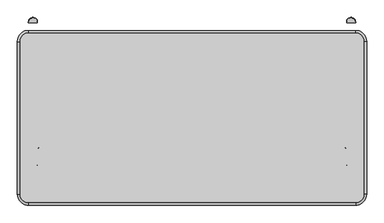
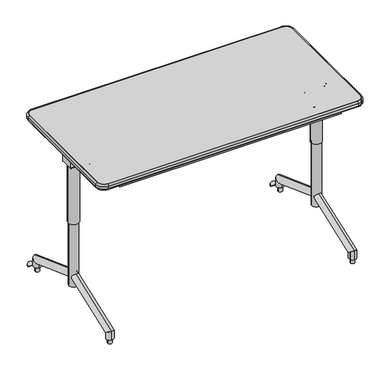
"""IFC4 building model written with IfcOpenShell, lengths in millimetres: furniture geometry, SmithSystem_AM_Table_Education_Elemental_NestAndFold_30D : 30D x 60W."""

from ifc_helpers import new_model, si_unit, point, frame, frame_2d, origin, place, context, project, spatial, polyline, circle_curve, ellipse_curve, trimmed, segment, composite_curve, outline, extrude, source, transform, mapped, element, save
from ifc_brep_helpers import plane_surface, cylinder_surface, revolved_surface, advanced_brep


def furniture_a0944320(model_context):
    return source(origin(), model_context, "Body", "SolidModel", [
        advanced_brep(
        [(1334.7134706, -503.4789552, 981.8257265), (1334.7134706, -510.7498344, 978.192725), (1327.0335156, -503.4789552, 981.8257265), (1327.0335156, -510.7498344, 978.192725), (1321.5159237, -515.6855805, 975.7265071), (1313.3879237, -515.6855805, 975.7265071), (1313.3879237, -580.9273959, 943.1274772), (1321.5159237, -580.9273959, 943.1274772), (1327.1310849, -585.9504224, 940.6176484), (1327.1310849, -593.2213016, 936.9846469), (1427.2139747, -593.2213016, 936.9846469), (1427.2139747, -585.9504224, 940.6176484), (1432.8070377, -580.9471638, 943.1175999), (1440.9350377, -580.9471638, 943.1175999), (1440.9350377, -515.7942232, 975.6722222), (1432.8070377, -515.7942232, 975.6722222), (1427.1679959, -510.7498344, 978.192725), (1427.1679959, -503.4789552, 981.8257265), (1419.6094908, -503.4789552, 981.8257265), (1419.6094908, -510.7498344, 978.192725)],
        [
            (0, 1, circle_curve(frame((1334.7134706, -507.1143948, 980.0092257), z_axis=(1.0, 0.0, 0.0), x_axis=(0.0, -0.8945471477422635, -0.4469736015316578)), 4.064)),
            (1, 0, circle_curve(frame((1334.7134706, -507.1143948, 980.0092257), z_axis=(1.0, 0.0, 0.0), x_axis=(0.0, -0.8945471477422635, -0.4469736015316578)), 4.064)),
            (0, 2),
            (2, 3, circle_curve(frame((1327.0335156, -507.1143948, 980.0092257), z_axis=(1.0, 0.0, 0.0), x_axis=(0.0, -0.8945471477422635, -0.4469736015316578)), 4.064)),
            (3, 1),
            (3, 2, circle_curve(frame((1327.0335156, -507.1143948, 980.0092257), z_axis=(1.0, 0.0, 0.0), x_axis=(0.0, -0.8945471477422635, -0.4469736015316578)), 4.064)),
            (4, 3, circle_curve(frame((1327.0335156, -515.6855805, 975.7265071), z_axis=(0.0, 0.4469736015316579, -0.8945471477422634), x_axis=(0.0, 0.8945471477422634, 0.4469736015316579)), 5.517592)),
            (2, 5, circle_curve(frame((1327.0335156, -515.6855805, 975.7265071), z_axis=(0.0, -0.4469736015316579, 0.8945471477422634), x_axis=(0.0, 0.8945471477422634, 0.4469736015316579)), 13.645592)),
            (5, 4, circle_curve(frame((1317.4519237, -515.6855805, 975.7265071), z_axis=(0.0, 0.8945471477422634, 0.4469736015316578), x_axis=(1.0, 0.0, 0.0)), 4.064)),
            (4, 5, circle_curve(frame((1317.4519237, -515.6855805, 975.7265071), z_axis=(0.0, 0.8945471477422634, 0.4469736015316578), x_axis=(1.0, 0.0, 0.0)), 4.064)),
            (5, 6),
            (6, 7, circle_curve(frame((1317.4519237, -580.9273959, 943.1274772), z_axis=(0.0, 0.8945471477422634, 0.4469736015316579), x_axis=(1.0, 0.0, 0.0)), 4.064)),
            (7, 4),
            (7, 6, circle_curve(frame((1317.4519237, -580.9273959, 943.1274772), z_axis=(0.0, 0.8945471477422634, 0.4469736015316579), x_axis=(1.0, 0.0, 0.0)), 4.064)),
            (8, 7, circle_curve(frame((1327.1310849, -580.9273959, 943.1274772), z_axis=(0.0, 0.4469736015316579, -0.8945471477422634), x_axis=(-1.0, 0.0, 0.0)), 5.6151612)),
            (6, 9, circle_curve(frame((1327.1310849, -580.9273959, 943.1274772), z_axis=(0.0, -0.4469736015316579, 0.8945471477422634), x_axis=(-1.0, 0.0, 0.0)), 13.7431612)),
            (9, 8, circle_curve(frame((1327.1310849, -589.585862, 938.8011476), z_axis=(-1.0, 0.0, 0.0), x_axis=(0.0, 0.8945471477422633, 0.44697360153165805)), 4.064)),
            (8, 9, circle_curve(frame((1327.1310849, -589.585862, 938.8011476), z_axis=(-1.0, 0.0, 0.0), x_axis=(0.0, 0.8945471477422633, 0.44697360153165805)), 4.064)),
            (9, 10),
            (10, 11, circle_curve(frame((1427.2139747, -589.585862, 938.8011476), z_axis=(-1.0, 0.0, 0.0), x_axis=(0.0, 0.8945471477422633, 0.44697360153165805)), 4.064)),
            (11, 8),
            (11, 10, circle_curve(frame((1427.2139747, -589.585862, 938.8011476), z_axis=(-1.0, 0.0, 0.0), x_axis=(0.0, 0.8945471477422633, 0.44697360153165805)), 4.064)),
            (12, 11, circle_curve(frame((1427.2139747, -580.9471638, 943.1175999), z_axis=(0.0, 0.4469736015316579, -0.8945471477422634), x_axis=(0.0, -0.8945471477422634, -0.4469736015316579)), 5.593063)),
            (10, 13, circle_curve(frame((1427.2139747, -580.9471638, 943.1175999), z_axis=(0.0, -0.4469736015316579, 0.8945471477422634), x_axis=(0.0, -0.8945471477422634, -0.4469736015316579)), 13.721063)),
            (13, 12, circle_curve(frame((1436.8710377, -580.9471638, 943.1175999), z_axis=(0.0, -0.8945471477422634, -0.44697360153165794), x_axis=(-1.0, 0.0, 0.0)), 4.064)),
            (12, 13, circle_curve(frame((1436.8710377, -580.9471638, 943.1175999), z_axis=(0.0, -0.8945471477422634, -0.44697360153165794), x_axis=(-1.0, 0.0, 0.0)), 4.064)),
            (13, 14),
            (14, 15, circle_curve(frame((1436.8710377, -515.7942232, 975.6722222), z_axis=(0.0, -0.8945471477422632, -0.4469736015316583), x_axis=(-1.0, 0.0, 0.0)), 4.064)),
            (15, 12),
            (15, 14, circle_curve(frame((1436.8710377, -515.7942232, 975.6722222), z_axis=(0.0, -0.8945471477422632, -0.4469736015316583), x_axis=(-1.0, 0.0, 0.0)), 4.064)),
            (16, 15, circle_curve(frame((1427.1679959, -515.7942232, 975.6722222), z_axis=(0.0, 0.4469736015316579, -0.8945471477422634), x_axis=(1.0, 0.0, 0.0)), 5.6390418)),
            (14, 17, circle_curve(frame((1427.1679959, -515.7942232, 975.6722222), z_axis=(0.0, -0.4469736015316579, 0.8945471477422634), x_axis=(1.0, 0.0, 0.0)), 13.7670418)),
            (17, 16, circle_curve(frame((1427.1679959, -507.1143948, 980.0092257), z_axis=(1.0, 0.0, 0.0), x_axis=(0.0, -0.8945471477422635, -0.44697360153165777)), 4.064)),
            (16, 17, circle_curve(frame((1427.1679959, -507.1143948, 980.0092257), z_axis=(1.0, 0.0, 0.0), x_axis=(0.0, -0.8945471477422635, -0.44697360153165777)), 4.064)),
            (18, 19, circle_curve(frame((1419.6094908, -507.1143948, 980.0092257), z_axis=(-1.0, 0.0, 0.0), x_axis=(0.0, -0.8945471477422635, -0.4469736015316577)), 4.064)),
            (19, 18, circle_curve(frame((1419.6094908, -507.1143948, 980.0092257), z_axis=(-1.0, 0.0, 0.0), x_axis=(0.0, -0.8945471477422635, -0.4469736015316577)), 4.064)),
            (17, 18),
            (19, 16),
        ],
        [
            plane_surface(frame((1334.7134706, -370.4506725, 697.3892853), z_axis=(1.0000000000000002, 0.0, 0.0), x_axis=(0.0, -0.4469736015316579, 0.8945471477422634))),
            cylinder_surface(frame((1334.7134706, -507.1143948, 980.0092257), z_axis=(1.0000000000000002, 0.0, 0.0), x_axis=(0.0, -0.8945471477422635, -0.4469736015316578)), 4.064),
            revolved_surface(trimmed(ellipse_curve(frame((1327.0335156, -507.1143948, 980.0092257), z_axis=(1.0, 0.0, 0.0), x_axis=(0.0, -0.8945471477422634, -0.4469736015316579)), 4.064, 4.064), [point((1327.0335156, -503.4789552, 981.8257265))], [point((1327.0335156, -510.7498344, 978.192725))], True, "CARTESIAN"), (1327.0335156, -375.3797009, 694.926424), (0.0, -0.4469736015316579, 0.8945471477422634)),
            revolved_surface(trimmed(ellipse_curve(frame((1327.0335156, -507.1143948, 980.0092257), z_axis=(1.0, 0.0, 0.0), x_axis=(0.0, -0.8945471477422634, -0.4469736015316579)), 4.064, 4.064), [point((1327.0335156, -510.7498344, 978.192725))], [point((1327.0335156, -503.4789552, 981.8257265))], True, "CARTESIAN"), (1327.0335156, -375.3797009, 694.926424), (0.0, -0.4469736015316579, 0.8945471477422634)),
            cylinder_surface(frame((1317.4519237, -515.6855805, 975.7265071), z_axis=(0.0, 0.8945471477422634, 0.4469736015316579), x_axis=(1.0, 0.0, 0.0)), 4.064),
            revolved_surface(trimmed(ellipse_curve(frame((1317.4519237, -580.9273959, 943.1274772), z_axis=(0.0, 0.8945471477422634, 0.4469736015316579), x_axis=(1.0, 0.0, 0.0)), 4.064, 4.064), [point((1313.3879237, -580.9273959, 943.1274772))], [point((1321.5159237, -580.9273959, 943.1274772))], True, "CARTESIAN"), (1327.1310849, -440.6215163, 662.3273941), (0.0, -0.4469736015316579, 0.8945471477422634)),
            revolved_surface(trimmed(ellipse_curve(frame((1317.4519237, -580.9273959, 943.1274772), z_axis=(0.0, 0.8945471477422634, 0.4469736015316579), x_axis=(1.0, 0.0, 0.0)), 4.064, 4.064), [point((1321.5159237, -580.9273959, 943.1274772))], [point((1313.3879237, -580.9273959, 943.1274772))], True, "CARTESIAN"), (1327.1310849, -440.6215163, 662.3273941), (0.0, -0.4469736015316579, 0.8945471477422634)),
            cylinder_surface(frame((1327.1310849, -589.585862, 938.8011476), z_axis=(-1.0, 0.0, 0.0), x_axis=(0.0, 0.8945471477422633, 0.44697360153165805)), 4.064),
            revolved_surface(trimmed(ellipse_curve(frame((1427.2139747, -589.585862, 938.8011476), z_axis=(-1.0, 0.0, 0.0), x_axis=(0.0, 0.8945471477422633, 0.44697360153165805)), 4.064, 4.064), [point((1427.2139747, -593.2213016, 936.9846469))], [point((1427.2139747, -585.9504224, 940.6176484))], True, "CARTESIAN"), (1427.2139747, -440.6412842, 662.3175168), (0.0, -0.4469736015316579, 0.8945471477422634)),
            revolved_surface(trimmed(ellipse_curve(frame((1427.2139747, -589.585862, 938.8011476), z_axis=(-1.0, 0.0, 0.0), x_axis=(0.0, 0.8945471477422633, 0.44697360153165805)), 4.064, 4.064), [point((1427.2139747, -585.9504224, 940.6176484))], [point((1427.2139747, -593.2213016, 936.9846469))], True, "CARTESIAN"), (1427.2139747, -440.6412842, 662.3175168), (0.0, -0.4469736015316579, 0.8945471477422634)),
            cylinder_surface(frame((1436.8710377, -580.9471638, 943.1175999), z_axis=(0.0, -0.8945471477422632, -0.4469736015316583), x_axis=(-1.0, 0.0, 0.0)), 4.064),
            revolved_surface(trimmed(ellipse_curve(frame((1436.8710377, -515.7942232, 975.6722222), z_axis=(0.0, -0.8945471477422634, -0.44697360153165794), x_axis=(-1.0, 0.0, 0.0)), 4.064, 4.064), [point((1440.9350377, -515.7942232, 975.6722222))], [point((1432.8070377, -515.7942232, 975.6722222))], True, "CARTESIAN"), (1427.1679959, -375.4883435, 694.8721391), (0.0, -0.4469736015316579, 0.8945471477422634)),
            revolved_surface(trimmed(ellipse_curve(frame((1436.8710377, -515.7942232, 975.6722222), z_axis=(0.0, -0.8945471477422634, -0.44697360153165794), x_axis=(-1.0, 0.0, 0.0)), 4.064, 4.064), [point((1432.8070377, -515.7942232, 975.6722222))], [point((1440.9350377, -515.7942232, 975.6722222))], True, "CARTESIAN"), (1427.1679959, -375.4883435, 694.8721391), (0.0, -0.4469736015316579, 0.8945471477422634)),
            plane_surface(frame((1419.6094908, -370.4506725, 697.3892853), z_axis=(-1.0, 0.0, 0.0), x_axis=(0.0, -0.4469736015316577, 0.8945471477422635))),
            cylinder_surface(frame((1427.1679959, -507.1143948, 980.0092257), z_axis=(1.0000000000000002, 0.0, 0.0), x_axis=(0.0, -0.8945471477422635, -0.4469736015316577)), 4.064),
        ],
        [
            (0, [[1, 2]]),
            (1, [[-1, 3, 4, 5]]),
            (1, [[-2, -5, 6, -3]]),
            (2, [[7, -4, 8, 9]]),
            (3, [[-8, -6, -7, 10]]),
            (4, [[-9, 11, 12, 13]]),
            (4, [[-10, -13, 14, -11]]),
            (5, [[15, -12, 16, 17]]),
            (6, [[-16, -14, -15, 18]]),
            (7, [[-17, 19, 20, 21]]),
            (7, [[-18, -21, 22, -19]]),
            (8, [[23, -20, 24, 25]]),
            (9, [[-24, -22, -23, 26]]),
            (10, [[-25, 27, 28, 29]]),
            (10, [[-26, -29, 30, -27]]),
            (11, [[31, -28, 32, 33]]),
            (12, [[-32, -30, -31, 34]]),
            (13, [[35, 36]]),
            (14, [[-33, 37, -36, 38]]),
            (14, [[-34, -38, -35, -37]]),
        ],
    ),
        advanced_brep(
        [(189.2865294, -510.7370466, 978.1897867), (189.2865294, -503.4661674, 981.8227881), (196.9664844, -510.7370466, 978.1897867), (196.9664844, -503.4661674, 981.8227881), (210.6222023, -515.6818509, 975.7190427), (202.4942023, -515.6818509, 975.7190427), (202.4942023, -580.9236662, 943.1200128), (210.6222023, -580.9236662, 943.1200128), (196.8689151, -593.22663, 936.9726565), (196.8689151, -585.9557508, 940.605658), (96.7860253, -585.9557508, 940.605658), (96.7860253, -593.22663, 936.9726565), (83.0548363, -580.9434342, 943.1101355), (91.1828363, -580.9434342, 943.1101355), (91.1828363, -515.7904935, 975.6647578), (83.0548363, -515.7904935, 975.6647578), (96.8320041, -503.4661674, 981.8227881), (96.8320041, -510.7370466, 978.1897867), (104.3905092, -510.7370466, 978.1897867), (104.3905092, -503.4661674, 981.8227881)],
        [
            (0, 1, circle_curve(frame((189.2865294, -507.101607, 980.0062874), z_axis=(-1.0, 0.0, 0.0), x_axis=(0.0, 0.8945471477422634, 0.4469736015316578)), 4.064)),
            (1, 0, circle_curve(frame((189.2865294, -507.101607, 980.0062874), z_axis=(-1.0, 0.0, 0.0), x_axis=(0.0, 0.8945471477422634, 0.4469736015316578)), 4.064)),
            (0, 2),
            (2, 3, circle_curve(frame((196.9664844, -507.101607, 980.0062874), z_axis=(-1.0, 0.0, 0.0), x_axis=(0.0, 0.8945471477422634, 0.4469736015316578)), 4.064)),
            (3, 1),
            (3, 2, circle_curve(frame((196.9664844, -507.101607, 980.0062874), z_axis=(-1.0, 0.0, 0.0), x_axis=(0.0, 0.8945471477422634, 0.4469736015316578)), 4.064)),
            (4, 3, circle_curve(frame((196.9664844, -515.6818509, 975.7190427), z_axis=(0.0, -0.4469736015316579, 0.8945471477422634), x_axis=(0.0, 0.8945471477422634, 0.4469736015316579)), 13.6557179)),
            (2, 5, circle_curve(frame((196.9664844, -515.6818509, 975.7190427), z_axis=(0.0, 0.4469736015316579, -0.8945471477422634), x_axis=(0.0, 0.8945471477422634, 0.4469736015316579)), 5.5277179)),
            (5, 4, circle_curve(frame((206.5582023, -515.6818509, 975.7190427), z_axis=(0.0, 0.8945471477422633, 0.446973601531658), x_axis=(1.0, 0.0, 0.0)), 4.064)),
            (4, 5, circle_curve(frame((206.5582023, -515.6818509, 975.7190427), z_axis=(0.0, 0.8945471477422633, 0.446973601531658), x_axis=(1.0, 0.0, 0.0)), 4.064)),
            (5, 6),
            (6, 7, circle_curve(frame((206.5582023, -580.9236662, 943.1200128), z_axis=(0.0, 0.8945471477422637, 0.4469736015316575), x_axis=(1.0, 0.0, 0.0)), 4.064)),
            (7, 4),
            (7, 6, circle_curve(frame((206.5582023, -580.9236662, 943.1200128), z_axis=(0.0, 0.8945471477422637, 0.4469736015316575), x_axis=(1.0, 0.0, 0.0)), 4.064)),
            (8, 7, circle_curve(frame((196.8689151, -580.9236662, 943.1200128), z_axis=(0.0, -0.4469736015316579, 0.8945471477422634), x_axis=(1.0, 0.0, 0.0)), 13.7532872)),
            (6, 9, circle_curve(frame((196.8689151, -580.9236662, 943.1200128), z_axis=(0.0, 0.4469736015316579, -0.8945471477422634), x_axis=(1.0, 0.0, 0.0)), 5.6252872)),
            (9, 8, circle_curve(frame((196.8689151, -589.5911904, 938.7891573), z_axis=(1.0, 0.0, 0.0), x_axis=(0.0, -0.8945471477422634, -0.44697360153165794)), 4.064)),
            (8, 9, circle_curve(frame((196.8689151, -589.5911904, 938.7891573), z_axis=(1.0, 0.0, 0.0), x_axis=(0.0, -0.8945471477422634, -0.44697360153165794)), 4.064)),
            (9, 10),
            (10, 11, circle_curve(frame((96.7860253, -589.5911904, 938.7891573), z_axis=(1.0, 0.0, 0.0), x_axis=(0.0, -0.8945471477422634, -0.446973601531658)), 4.064)),
            (11, 8),
            (11, 10, circle_curve(frame((96.7860253, -589.5911904, 938.7891573), z_axis=(1.0, 0.0, 0.0), x_axis=(0.0, -0.8945471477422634, -0.446973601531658)), 4.064)),
            (12, 11, circle_curve(frame((96.7860253, -580.9434342, 943.1101355), z_axis=(0.0, -0.4469736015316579, 0.8945471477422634), x_axis=(0.0, -0.8945471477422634, -0.4469736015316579)), 13.7311889)),
            (10, 13, circle_curve(frame((96.7860253, -580.9434342, 943.1101355), z_axis=(0.0, 0.4469736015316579, -0.8945471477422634), x_axis=(0.0, -0.8945471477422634, -0.4469736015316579)), 5.6031889)),
            (13, 12, circle_curve(frame((87.1188363, -580.9434342, 943.1101355), z_axis=(0.0, -0.8945471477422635, -0.44697360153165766), x_axis=(-1.0, 0.0, 0.0)), 4.064)),
            (12, 13, circle_curve(frame((87.1188363, -580.9434342, 943.1101355), z_axis=(0.0, -0.8945471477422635, -0.44697360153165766), x_axis=(-1.0, 0.0, 0.0)), 4.064)),
            (13, 14),
            (14, 15, circle_curve(frame((87.1188363, -515.7904935, 975.6647578), z_axis=(0.0, -0.8945471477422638, -0.446973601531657), x_axis=(-1.0, 0.0, 0.0)), 4.064)),
            (15, 12),
            (15, 14, circle_curve(frame((87.1188363, -515.7904935, 975.6647578), z_axis=(0.0, -0.8945471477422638, -0.446973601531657), x_axis=(-1.0, 0.0, 0.0)), 4.064)),
            (16, 15, circle_curve(frame((96.8320041, -515.7904935, 975.6647578), z_axis=(0.0, -0.4469736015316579, 0.8945471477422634), x_axis=(-1.0, 0.0, 0.0)), 13.7771678)),
            (14, 17, circle_curve(frame((96.8320041, -515.7904935, 975.6647578), z_axis=(0.0, 0.4469736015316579, -0.8945471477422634), x_axis=(-1.0, 0.0, 0.0)), 5.6491678)),
            (17, 16, circle_curve(frame((96.8320041, -507.101607, 980.0062874), z_axis=(-1.0, 0.0, 0.0), x_axis=(0.0, 0.8945471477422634, 0.44697360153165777)), 4.064)),
            (16, 17, circle_curve(frame((96.8320041, -507.101607, 980.0062874), z_axis=(-1.0, 0.0, 0.0), x_axis=(0.0, 0.8945471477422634, 0.44697360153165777)), 4.064)),
            (18, 19, circle_curve(frame((104.3905092, -507.101607, 980.0062874), z_axis=(1.0, 0.0, 0.0), x_axis=(0.0, 0.8945471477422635, 0.44697360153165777)), 4.064)),
            (19, 18, circle_curve(frame((104.3905092, -507.101607, 980.0062874), z_axis=(1.0, 0.0, 0.0), x_axis=(0.0, 0.8945471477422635, 0.44697360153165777)), 4.064)),
            (17, 18),
            (19, 16),
        ],
        [
            plane_surface(frame((189.2865294, -385.67432, 727.857014), z_axis=(-1.0, 0.0, 0.0), x_axis=(0.0, -0.4469736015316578, 0.8945471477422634))),
            cylinder_surface(frame((189.2865294, -507.101607, 980.0062874), z_axis=(-0.9999999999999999, 0.0, 0.0), x_axis=(0.0, 0.8945471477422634, 0.4469736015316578)), 4.064),
            revolved_surface(trimmed(ellipse_curve(frame((196.9664844, -507.101607, 980.0062874), z_axis=(-1.0, 0.0, 0.0), x_axis=(0.0, 0.8945471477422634, 0.4469736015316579)), 4.064, 4.064), [point((196.9664844, -510.7370466, 978.1897867))], [point((196.9664844, -503.4661674, 981.8227881))], True, "CARTESIAN"), (196.9664844, -390.6033484, 725.3941527), (0.0, 0.4469736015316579, -0.8945471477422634)),
            revolved_surface(trimmed(ellipse_curve(frame((196.9664844, -507.101607, 980.0062874), z_axis=(-1.0, 0.0, 0.0), x_axis=(0.0, 0.8945471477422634, 0.4469736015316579)), 4.064, 4.064), [point((196.9664844, -503.4661674, 981.8227881))], [point((196.9664844, -510.7370466, 978.1897867))], True, "CARTESIAN"), (196.9664844, -390.6033484, 725.3941527), (0.0, 0.4469736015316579, -0.8945471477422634)),
            cylinder_surface(frame((206.5582023, -515.6818509, 975.7190427), z_axis=(0.0, 0.8945471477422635, 0.4469736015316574), x_axis=(1.0, 0.0, 0.0)), 4.064),
            revolved_surface(trimmed(ellipse_curve(frame((206.5582023, -580.9236662, 943.1200128), z_axis=(0.0, 0.8945471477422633, 0.4469736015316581), x_axis=(1.0, 0.0, 0.0)), 4.064, 4.064), [point((202.4942023, -580.9236662, 943.1200128))], [point((210.6222023, -580.9236662, 943.1200128))], True, "CARTESIAN"), (196.8689151, -455.8451638, 692.7951229), (0.0, 0.4469736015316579, -0.8945471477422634)),
            revolved_surface(trimmed(ellipse_curve(frame((206.5582023, -580.9236662, 943.1200128), z_axis=(0.0, 0.8945471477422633, 0.4469736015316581), x_axis=(1.0, 0.0, 0.0)), 4.064, 4.064), [point((210.6222023, -580.9236662, 943.1200128))], [point((202.4942023, -580.9236662, 943.1200128))], True, "CARTESIAN"), (196.8689151, -455.8451638, 692.7951229), (0.0, 0.4469736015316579, -0.8945471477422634)),
            cylinder_surface(frame((196.8689151, -589.5911904, 938.7891573), z_axis=(1.0, 0.0, 0.0), x_axis=(0.0, -0.8945471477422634, -0.446973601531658)), 4.064),
            revolved_surface(trimmed(ellipse_curve(frame((96.7860253, -589.5911904, 938.7891573), z_axis=(1.0, 0.0, 0.0), x_axis=(0.0, -0.8945471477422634, -0.446973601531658)), 4.064, 4.064), [point((96.7860253, -585.9557508, 940.605658))], [point((96.7860253, -593.22663, 936.9726565))], True, "CARTESIAN"), (96.7860253, -455.8649317, 692.7852455), (0.0, 0.4469736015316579, -0.8945471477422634)),
            revolved_surface(trimmed(ellipse_curve(frame((96.7860253, -589.5911904, 938.7891573), z_axis=(1.0, 0.0, 0.0), x_axis=(0.0, -0.8945471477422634, -0.446973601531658)), 4.064, 4.064), [point((96.7860253, -593.22663, 936.9726565))], [point((96.7860253, -585.9557508, 940.605658))], True, "CARTESIAN"), (96.7860253, -455.8649317, 692.7852455), (0.0, 0.4469736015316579, -0.8945471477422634)),
            cylinder_surface(frame((87.1188363, -580.9434342, 943.1101355), z_axis=(0.0, -0.8945471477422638, -0.446973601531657), x_axis=(-1.0, 0.0, 0.0)), 4.064),
            revolved_surface(trimmed(ellipse_curve(frame((87.1188363, -515.7904935, 975.6647578), z_axis=(0.0, -0.8945471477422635, -0.4469736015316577), x_axis=(-1.0, 0.0, 0.0)), 4.064, 4.064), [point((91.1828363, -515.7904935, 975.6647578))], [point((83.0548363, -515.7904935, 975.6647578))], True, "CARTESIAN"), (96.8320041, -390.711991, 725.3398679), (0.0, 0.4469736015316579, -0.8945471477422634)),
            revolved_surface(trimmed(ellipse_curve(frame((87.1188363, -515.7904935, 975.6647578), z_axis=(0.0, -0.8945471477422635, -0.4469736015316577), x_axis=(-1.0, 0.0, 0.0)), 4.064, 4.064), [point((83.0548363, -515.7904935, 975.6647578))], [point((91.1828363, -515.7904935, 975.6647578))], True, "CARTESIAN"), (96.8320041, -390.711991, 725.3398679), (0.0, 0.4469736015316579, -0.8945471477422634)),
            plane_surface(frame((104.3905092, -385.67432, 727.857014), z_axis=(1.0, 0.0, 0.0), x_axis=(0.0, -0.4469736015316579, 0.8945471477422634))),
            cylinder_surface(frame((96.8320041, -507.101607, 980.0062874), z_axis=(-1.0000000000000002, 0.0, 0.0), x_axis=(0.0, 0.8945471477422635, 0.44697360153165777)), 4.064),
        ],
        [
            (0, [[1, 2]]),
            (1, [[-1, 3, 4, 5]]),
            (1, [[-2, -5, 6, -3]]),
            (2, [[7, -4, 8, 9]]),
            (3, [[-8, -6, -7, 10]]),
            (4, [[-9, 11, 12, 13]]),
            (4, [[-10, -13, 14, -11]]),
            (5, [[15, -12, 16, 17]]),
            (6, [[-16, -14, -15, 18]]),
            (7, [[-17, 19, 20, 21]]),
            (7, [[-18, -21, 22, -19]]),
            (8, [[23, -20, 24, 25]]),
            (9, [[-24, -22, -23, 26]]),
            (10, [[-25, 27, 28, 29]]),
            (10, [[-26, -29, 30, -27]]),
            (11, [[31, -28, 32, 33]]),
            (12, [[-32, -30, -31, 34]]),
            (13, [[35, 36]]),
            (14, [[-33, 37, -36, 38]]),
            (14, [[-34, -38, -35, -37]]),
        ],
    ),
        extrude(outline(polyline([(161.8904019, -703.4143137), (133.8581916, -703.4143137), (133.8581916, -327.1633652), (161.8904019, -327.1633652), (161.8904019, -703.4143137)])), frame((0.0, 0.0, 974.280274), z_axis=(0.0, 0.0, 1.0), x_axis=(1.0, 0.0, 0.0)), (0.0, 0.0, 1.0), 3.0744342),
        extrude(outline(polyline([(1390.1418084, -703.4143137), (1362.1095981, -703.4143137), (1362.1095981, -327.1633652), (1390.1418084, -327.1633652), (1390.1418084, -703.4143137)])), frame((0.0, 0.0, 974.280274), z_axis=(0.0, 0.0, 1.0), x_axis=(1.0, 0.0, 0.0)), (0.0, 0.0, 1.0), 3.0744342),
        extrude(outline(polyline([(1395.6745397, -703.4143137), (1395.6745397, -733.4147172), (128.3254603, -733.4147172), (128.3254603, -703.4143137), (1395.6745397, -703.4143137)])), frame((0.0, 0.0, 956.9875008), z_axis=(0.0, 0.0, 1.0), x_axis=(1.0, 0.0, 0.0)), (0.0, 0.0, 1.0), 20.3672075),
        extrude(outline(polyline([(-358.6370254, 984.2285912), (-336.5053067, 984.2285912), (-336.5053067, 981.8836076), (-355.5992263, 981.8836076), (-355.5992263, 953.4317459), (-406.4007737, 953.4317459), (-406.4007737, 981.8836076), (-425.4946933, 981.8836076), (-425.4946933, 984.2285912), (-403.3629746, 984.2285912), (-403.3629746, 955.4207676), (-358.6370254, 955.4207676), (-358.6370254, 984.2285912)])), frame((211.3171616, 0.0, 0.0), z_axis=(1.0, 0.0, 0.0), x_axis=(0.0, 1.0, 0.0)), (0.0, 0.0, 1.0), 1101.3656767),
        extrude(outline(polyline([(953.4317459, 102.364461), (953.4317459, 191.3646412), (984.2285912, 191.3646412), (984.2285912, 188.3699958), (956.6757476, 188.3699958), (956.6757476, 105.3591064), (984.2285912, 105.3591064), (984.2285912, 102.364461), (953.4317459, 102.364461)])), frame((0.0, -556.0003829, 0.0), z_axis=(0.0, 1.0, 0.0), x_axis=(0.0, 0.0, 1.0)), (0.0, 0.0, 1.0), 349.9998846),
        extrude(outline(polyline([(953.4317459, 1421.635539), (984.2285912, 1421.635539), (984.2285912, 1418.6408936), (956.6757476, 1418.6408936), (956.6757476, 1335.6300042), (984.2285912, 1335.6300042), (984.2285912, 1332.6353588), (953.4317459, 1332.6353588), (953.4317459, 1421.635539)])), frame((0.0, -556.0003829, 0.0), z_axis=(0.0, 1.0, 0.0), x_axis=(0.0, 0.0, 1.0)), (0.0, 0.0, 1.0), 349.9998846),
        extrude(outline(composite_curve([segment(polyline([(-417.9081299, 953.4317459), (-343.9421288, 953.4317459)]), True, "CONTINUOUS"), segment(trimmed(circle_curve(frame_2d((-343.9421288, 950.268135)), 3.1636109), [point((-343.9421288, 953.4317459))], [point((-340.7785179, 950.268135))], False, "CARTESIAN"), True, "CONTINUOUS"), segment(polyline([(-340.7785179, 950.268135), (-340.7785179, 916.5890828)]), True, "CONTINUOUS"), segment(trimmed(circle_curve(frame_2d((-343.920262, 916.5890828)), 3.1417441), [point((-340.7785179, 916.5890828))], [point((-343.920262, 913.4473388))], False, "CARTESIAN"), True, "CONTINUOUS"), segment(polyline([(-343.920262, 913.4473388), (-418.0879819, 913.4473388)]), True, "CONTINUOUS"), segment(trimmed(circle_curve(frame_2d((-418.0879819, 916.3885905)), 2.9412518), [point((-418.0879819, 913.4473388))], [point((-421.0292336, 916.3885905))], False, "CARTESIAN"), True, "CONTINUOUS"), segment(polyline([(-421.0292336, 916.3885905), (-421.0292336, 950.3106422)]), True, "CONTINUOUS"), segment(trimmed(circle_curve(frame_2d((-417.9081299, 950.3106422)), 3.1211038), [point((-421.0292336, 950.3106422))], [point((-417.9081299, 953.4317459))], False, "CARTESIAN"), True, "CONTINUOUS")], self_intersect=False)), frame((29.2900918, 0.0, 0.0), z_axis=(1.0, 0.0, 0.0), x_axis=(0.0, 1.0, 0.0)), (0.0, 0.0, 1.0), 1465.4198163),
        advanced_brep(
        [(0.0, -47.752, 1006.475029), (47.752, 0.0, 1006.475029), (47.752, 0.0, 993.7749708), (0.0, -47.752, 993.7749708), (9.652, -47.752, 1016.0), (47.752, -9.652, 1016.0), (9.652, -47.752, 984.2285912), (47.752, -9.652, 984.2285912), (0.0, -714.248, 993.7749708), (0.0, -714.248, 1006.475029), (9.652, -714.248, 1016.0), (9.652, -714.248, 984.2285912), (47.752, -762.0, 1006.475029), (47.752, -762.0, 993.7749708), (47.752, -752.348, 1016.0), (47.752, -752.348, 984.2285912), (1476.248, -762.0, 993.7749708), (1476.248, -762.0, 1006.475029), (1476.248, -752.348, 1016.0), (1476.248, -752.348, 984.2285912), (1524.0, -714.248, 1006.475029), (1524.0, -714.248, 993.7749708), (1514.348, -714.248, 1016.0), (1514.348, -714.248, 984.2285912), (1524.0, -47.752, 993.7749708), (1524.0, -47.752, 1006.475029), (1514.348, -47.752, 1016.0), (1514.348, -47.752, 984.2285912), (1476.248, 0.0, 1006.475029), (1476.248, 0.0, 993.7749708), (1476.248, -9.652, 1016.0), (1476.248, -9.652, 984.2285912)],
        [
            (0, 1, circle_curve(frame((47.752, -47.752, 1006.475029), z_axis=(0.0, 0.0, -1.0), x_axis=(0.0, 1.0, 0.0)), 47.752)),
            (1, 2),
            (2, 3, circle_curve(frame((47.752, -47.752, 993.7749708), z_axis=(0.0, 0.0, 1.0), x_axis=(0.0, 1.0, 0.0)), 47.752)),
            (3, 0),
            (4, 5, circle_curve(frame((47.752, -47.752, 1016.0), z_axis=(0.0, 0.0, -1.0), x_axis=(0.0, 1.0, 0.0)), 38.1)),
            (5, 1, circle_curve(frame((47.752, -9.5258069, 1006.475029), z_axis=(-1.0, 0.0, 0.0), x_axis=(0.0, -1.0, 0.0)), 9.5258069)),
            (0, 4, circle_curve(frame((9.5258069, -47.752, 1006.475029), z_axis=(0.0, 1.0, 0.0), x_axis=(1.0, 0.0, 0.0)), 9.5258069)),
            (6, 7, circle_curve(frame((47.752, -47.752, 984.2285912), z_axis=(0.0, 0.0, -1.0), x_axis=(0.0, 1.0, 0.0)), 38.1)),
            (7, 5),
            (4, 6),
            (2, 7, circle_curve(frame((47.752, -9.5469575, 993.7749708), z_axis=(-1.0, 0.0, 0.0), x_axis=(0.0, -1.0, 0.0)), 9.5469575)),
            (6, 3, circle_curve(frame((9.5469575, -47.752, 993.7749708), z_axis=(0.0, 1.0, 0.0), x_axis=(1.0, 0.0, 0.0)), 9.5469575)),
            (3, 8),
            (8, 9),
            (9, 0),
            (9, 10, circle_curve(frame((9.5258069, -714.248, 1006.475029), z_axis=(0.0, 1.0, 0.0), x_axis=(1.0, 0.0, 0.0)), 9.5258069)),
            (10, 4),
            (10, 11),
            (11, 6),
            (11, 8, circle_curve(frame((9.5469575, -714.248, 993.7749708), z_axis=(0.0, 1.0, 0.0), x_axis=(1.0, 0.0, 0.0)), 9.5469575)),
            (12, 9, circle_curve(frame((47.752, -714.248, 1006.475029), z_axis=(0.0, 0.0, -1.0), x_axis=(-1.0, 0.0, 0.0)), 47.752)),
            (8, 13, circle_curve(frame((47.752, -714.248, 993.7749708), z_axis=(0.0, 0.0, 1.0), x_axis=(-1.0, 0.0, 0.0)), 47.752)),
            (13, 12),
            (14, 10, circle_curve(frame((47.752, -714.248, 1016.0), z_axis=(0.0, 0.0, -1.0), x_axis=(-1.0, 0.0, 0.0)), 38.1)),
            (12, 14, circle_curve(frame((47.752, -752.4741931, 1006.475029), z_axis=(-1.0, 0.0, 0.0), x_axis=(0.0, 1.0, 0.0)), 9.5258069)),
            (15, 11, circle_curve(frame((47.752, -714.248, 984.2285912), z_axis=(0.0, 0.0, -1.0), x_axis=(-1.0, 0.0, 0.0)), 38.1)),
            (14, 15),
            (15, 13, circle_curve(frame((47.752, -752.4530425, 993.7749708), z_axis=(-1.0, 0.0, 0.0), x_axis=(0.0, 1.0, 0.0)), 9.5469575)),
            (13, 16),
            (16, 17),
            (17, 12),
            (17, 18, circle_curve(frame((1476.248, -752.4741931, 1006.475029), z_axis=(-1.0, 0.0, 0.0), x_axis=(0.0, 1.0, 0.0)), 9.5258069)),
            (18, 14),
            (18, 19),
            (19, 15),
            (19, 16, circle_curve(frame((1476.248, -752.4530425, 993.7749708), z_axis=(-1.0, 0.0, 0.0), x_axis=(0.0, 1.0, 0.0)), 9.5469575)),
            (20, 17, circle_curve(frame((1476.248, -714.248, 1006.475029), z_axis=(0.0, 0.0, -1.0), x_axis=(0.0, -1.0, 0.0)), 47.752)),
            (16, 21, circle_curve(frame((1476.248, -714.248, 993.7749708), z_axis=(0.0, 0.0, 1.0), x_axis=(0.0, -1.0, 0.0)), 47.752)),
            (21, 20),
            (22, 18, circle_curve(frame((1476.248, -714.248, 1016.0), z_axis=(0.0, 0.0, -1.0), x_axis=(0.0, -1.0, 0.0)), 38.1)),
            (20, 22, circle_curve(frame((1514.4741931, -714.248, 1006.475029), z_axis=(0.0, -1.0, 0.0), x_axis=(-1.0, 0.0, 0.0)), 9.5258069)),
            (23, 19, circle_curve(frame((1476.248, -714.248, 984.2285912), z_axis=(0.0, 0.0, -1.0), x_axis=(0.0, -1.0, 0.0)), 38.1)),
            (22, 23),
            (23, 21, circle_curve(frame((1514.4530425, -714.248, 993.7749708), z_axis=(0.0, -1.0, 0.0), x_axis=(-1.0, 0.0, 0.0)), 9.5469575)),
            (21, 24),
            (24, 25),
            (25, 20),
            (25, 26, circle_curve(frame((1514.4741931, -47.752, 1006.475029), z_axis=(0.0, -1.0, 0.0), x_axis=(-1.0, 0.0, 0.0)), 9.5258069)),
            (26, 22),
            (26, 27),
            (27, 23),
            (27, 24, circle_curve(frame((1514.4530425, -47.752, 993.7749708), z_axis=(0.0, -1.0, 0.0), x_axis=(-1.0, 0.0, 0.0)), 9.5469575)),
            (28, 25, circle_curve(frame((1476.248, -47.752, 1006.475029), z_axis=(0.0, 0.0, -1.0), x_axis=(1.0, 0.0, 0.0)), 47.752)),
            (24, 29, circle_curve(frame((1476.248, -47.752, 993.7749708), z_axis=(0.0, 0.0, 1.0), x_axis=(1.0, 0.0, 0.0)), 47.752)),
            (29, 28),
            (30, 26, circle_curve(frame((1476.248, -47.752, 1016.0), z_axis=(0.0, 0.0, -1.0), x_axis=(1.0, 0.0, 0.0)), 38.1)),
            (28, 30, circle_curve(frame((1476.248, -9.5258069, 1006.475029), z_axis=(1.0, 0.0, 0.0), x_axis=(0.0, -1.0, 0.0)), 9.5258069)),
            (31, 27, circle_curve(frame((1476.248, -47.752, 984.2285912), z_axis=(0.0, 0.0, -1.0), x_axis=(1.0, 0.0, 0.0)), 38.1)),
            (30, 31),
            (31, 29, circle_curve(frame((1476.248, -9.5469575, 993.7749708), z_axis=(1.0, 0.0, 0.0), x_axis=(0.0, -1.0, 0.0)), 9.5469575)),
            (29, 2),
            (1, 28),
            (5, 30),
            (7, 31),
        ],
        [
            cylinder_surface(frame((47.752, -47.752, 0.0), z_axis=(0.0, 0.0, 1.0), x_axis=(0.0, 1.0, 0.0)), 47.752),
            revolved_surface(trimmed(ellipse_curve(frame((47.752, -9.5258069, 1006.475029), z_axis=(1.0, 0.0, 0.0), x_axis=(0.0, -1.0, 0.0)), 9.5258069, 9.5258069), [point((47.752, 0.0, 1006.475029))], [point((47.752, -9.652, 1016.0))], True, "CARTESIAN"), (47.752, -47.752, 0.0), (0.0, 0.0, 1.0)),
            revolved_surface(polyline([(47.752, -9.652000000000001, 1016.0), (47.752, -9.652000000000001, 984.2285912)]), (47.752, -47.752, 0.0), (0.0, 0.0, 1.0)),
            revolved_surface(trimmed(ellipse_curve(frame((47.752, -9.5469575, 993.7749708), z_axis=(1.0, 0.0, 0.0), x_axis=(0.0, -1.0, 0.0)), 9.5469575, 9.5469575), [point((47.752, -9.652, 984.2285912))], [point((47.752, 0.0, 993.7749708))], True, "CARTESIAN"), (47.752, -47.752, 0.0), (0.0, 0.0, 1.0)),
            plane_surface(frame((0.0, -47.752, 993.7749708), z_axis=(-1.0, 0.0, 0.0), x_axis=(0.0, -1.0, 0.0))),
            cylinder_surface(frame((9.5258069, -47.752, 1006.475029), z_axis=(0.0, 1.0, 0.0), x_axis=(1.0, 0.0, 0.0)), 9.5258069),
            plane_surface(frame((9.652, -47.752, 1016.0), z_axis=(1.0, 0.0, 0.0), x_axis=(0.0, -1.0, 0.0))),
            cylinder_surface(frame((9.5469575, -47.752, 993.7749708), z_axis=(0.0, 1.0, 0.0), x_axis=(1.0, 0.0, 0.0)), 9.5469575),
            cylinder_surface(frame((47.752, -714.248, 0.0), z_axis=(0.0, 0.0, 1.0), x_axis=(-1.0, 0.0, 0.0)), 47.752),
            revolved_surface(trimmed(ellipse_curve(frame((9.5258069, -714.248, 1006.475029), z_axis=(0.0, 1.0, 0.0), x_axis=(1.0, 0.0, 0.0)), 9.5258069, 9.5258069), [point((0.0, -714.248, 1006.475029))], [point((9.652, -714.248, 1016.0))], True, "CARTESIAN"), (47.752, -714.248, 0.0), (0.0, 0.0, 1.0)),
            revolved_surface(polyline([(9.652000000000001, -714.248, 1016.0), (9.652000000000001, -714.248, 984.2285912)]), (47.752, -714.248, 0.0), (0.0, 0.0, 1.0)),
            revolved_surface(trimmed(ellipse_curve(frame((9.5469575, -714.248, 993.7749708), z_axis=(0.0, 1.0, 0.0), x_axis=(1.0, 0.0, 0.0)), 9.5469575, 9.5469575), [point((9.652, -714.248, 984.2285912))], [point((0.0, -714.248, 993.7749708))], True, "CARTESIAN"), (47.752, -714.248, 0.0), (0.0, 0.0, 1.0)),
            plane_surface(frame((47.752, -762.0, 993.7749708), z_axis=(0.0, -1.0, 0.0), x_axis=(1.0, 0.0, 0.0))),
            cylinder_surface(frame((47.752, -752.4741931, 1006.475029), z_axis=(-1.0, 0.0, 0.0), x_axis=(0.0, 1.0, 0.0)), 9.5258069),
            plane_surface(frame((47.752, -752.348, 1016.0), z_axis=(0.0, 1.0, 0.0), x_axis=(1.0, 0.0, 0.0))),
            cylinder_surface(frame((47.752, -752.4530425, 993.7749708), z_axis=(-1.0, 0.0, 0.0), x_axis=(0.0, 1.0, 0.0)), 9.5469575),
            cylinder_surface(frame((1476.248, -714.248, 0.0), z_axis=(0.0, 0.0, 1.0), x_axis=(0.0, -1.0, 0.0)), 47.752),
            revolved_surface(trimmed(ellipse_curve(frame((1476.248, -752.4741931, 1006.475029), z_axis=(-1.0, 0.0, 0.0), x_axis=(0.0, 1.0, 0.0)), 9.5258069, 9.5258069), [point((1476.248, -762.0, 1006.475029))], [point((1476.248, -752.348, 1016.0))], True, "CARTESIAN"), (1476.248, -714.248, 0.0), (0.0, 0.0, 1.0)),
            revolved_surface(polyline([(1476.248, -752.3480000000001, 1016.0), (1476.248, -752.3480000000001, 984.2285912)]), (1476.248, -714.248, 0.0), (0.0, 0.0, 1.0)),
            revolved_surface(trimmed(ellipse_curve(frame((1476.248, -752.4530425, 993.7749708), z_axis=(-1.0, 0.0, 0.0), x_axis=(0.0, 1.0, 0.0)), 9.5469575, 9.5469575), [point((1476.248, -752.348, 984.2285912))], [point((1476.248, -762.0, 993.7749708))], True, "CARTESIAN"), (1476.248, -714.248, 0.0), (0.0, 0.0, 1.0)),
            plane_surface(frame((1524.0, -714.248, 993.7749708), z_axis=(1.0, 0.0, 0.0), x_axis=(0.0, 1.0, 0.0))),
            cylinder_surface(frame((1514.4741931, -714.248, 1006.475029), z_axis=(0.0, -1.0, 0.0), x_axis=(-1.0, 0.0, 0.0)), 9.5258069),
            plane_surface(frame((1514.348, -714.248, 1016.0), z_axis=(-1.0, 0.0, 0.0), x_axis=(0.0, 1.0, 0.0))),
            cylinder_surface(frame((1514.4530425, -714.248, 993.7749708), z_axis=(0.0, -1.0, 0.0), x_axis=(-1.0, 0.0, 0.0)), 9.5469575),
            cylinder_surface(frame((1476.248, -47.752, 0.0), z_axis=(0.0, 0.0, 1.0), x_axis=(1.0, 0.0, 0.0)), 47.752),
            revolved_surface(trimmed(ellipse_curve(frame((1514.4741931, -47.752, 1006.475029), z_axis=(0.0, -1.0, 0.0), x_axis=(-1.0, 0.0, 0.0)), 9.5258069, 9.5258069), [point((1524.0, -47.752, 1006.475029))], [point((1514.348, -47.752, 1016.0))], True, "CARTESIAN"), (1476.248, -47.752, 0.0), (0.0, 0.0, 1.0)),
            revolved_surface(polyline([(1514.348, -47.752, 1016.0), (1514.348, -47.752, 984.2285912)]), (1476.248, -47.752, 0.0), (0.0, 0.0, 1.0)),
            revolved_surface(trimmed(ellipse_curve(frame((1514.4530425, -47.752, 993.7749708), z_axis=(0.0, -1.0, 0.0), x_axis=(-1.0, 0.0, 0.0)), 9.5469575, 9.5469575), [point((1514.348, -47.752, 984.2285912))], [point((1524.0, -47.752, 993.7749708))], True, "CARTESIAN"), (1476.248, -47.752, 0.0), (0.0, 0.0, 1.0)),
            plane_surface(frame((1476.248, 0.0, 993.7749708), z_axis=(0.0, 1.0, 0.0), x_axis=(-1.0, 0.0, 0.0))),
            cylinder_surface(frame((1476.248, -9.5258069, 1006.475029), z_axis=(1.0, 0.0, 0.0), x_axis=(0.0, -1.0, 0.0)), 9.5258069),
            plane_surface(frame((1476.248, -9.652, 1016.0), z_axis=(0.0, -1.0, 0.0), x_axis=(-1.0, 0.0, 0.0))),
            cylinder_surface(frame((1476.248, -9.5469575, 993.7749708), z_axis=(1.0, 0.0, 0.0), x_axis=(0.0, -1.0, 0.0)), 9.5469575),
        ],
        [
            (0, [[1, 2, 3, 4]]),
            (1, [[5, 6, -1, 7]]),
            (2, [[8, 9, -5, 10]]),
            (3, [[-3, 11, -8, 12]]),
            (4, [[-4, 13, 14, 15]]),
            (5, [[-7, -15, 16, 17]]),
            (6, [[-10, -17, 18, 19]]),
            (7, [[-12, -19, 20, -13]]),
            (8, [[21, -14, 22, 23]]),
            (9, [[24, -16, -21, 25]]),
            (10, [[26, -18, -24, 27]]),
            (11, [[-22, -20, -26, 28]]),
            (12, [[-23, 29, 30, 31]]),
            (13, [[-25, -31, 32, 33]]),
            (14, [[-27, -33, 34, 35]]),
            (15, [[-28, -35, 36, -29]]),
            (16, [[37, -30, 38, 39]]),
            (17, [[40, -32, -37, 41]]),
            (18, [[42, -34, -40, 43]]),
            (19, [[-38, -36, -42, 44]]),
            (20, [[-39, 45, 46, 47]]),
            (21, [[-41, -47, 48, 49]]),
            (22, [[-43, -49, 50, 51]]),
            (23, [[-44, -51, 52, -45]]),
            (24, [[53, -46, 54, 55]]),
            (25, [[56, -48, -53, 57]]),
            (26, [[58, -50, -56, 59]]),
            (27, [[-54, -52, -58, 60]]),
            (28, [[-55, 61, -2, 62]]),
            (29, [[-57, -62, -6, 63]]),
            (30, [[-59, -63, -9, 64]]),
            (31, [[-60, -64, -11, -61]]),
        ],
    ),
        extrude(outline(composite_curve([segment(trimmed(circle_curve(frame_2d((1476.248, -47.752)), 38.1), [point((1476.248, -9.652))], [point((1514.348, -47.752))], False, "CARTESIAN"), True, "CONTINUOUS"), segment(polyline([(1514.348, -47.752), (1514.348, -714.248)]), True, "CONTINUOUS"), segment(trimmed(circle_curve(frame_2d((1476.248, -714.248)), 38.1), [point((1514.348, -714.248))], [point((1476.248, -752.348))], False, "CARTESIAN"), True, "CONTINUOUS"), segment(polyline([(1476.248, -752.348), (47.752, -752.348)]), True, "CONTINUOUS"), segment(trimmed(circle_curve(frame_2d((47.752, -714.248)), 38.1), [point((47.752, -752.348))], [point((9.652, -714.248))], False, "CARTESIAN"), True, "CONTINUOUS"), segment(polyline([(9.652, -714.248), (9.652, -47.752)]), True, "CONTINUOUS"), segment(trimmed(circle_curve(frame_2d((47.752, -47.752)), 38.1), [point((9.652, -47.752))], [point((47.752, -9.652))], False, "CARTESIAN"), True, "CONTINUOUS"), segment(polyline([(47.752, -9.652), (1476.248, -9.652)]), True, "CONTINUOUS")], self_intersect=False)), frame((0.0, 0.0, 984.2285912), z_axis=(0.0, 0.0, 1.0), x_axis=(1.0, 0.0, 0.0)), (0.0, 0.0, 1.0), 31.7714088),
        extrude(outline(composite_curve([segment(trimmed(circle_curve(frame_2d((67.6376194, -381.0)), 30.1619336), [point((37.4756858, -381.0))], [point((97.799553, -381.0))], False, "CARTESIAN"), True, "CONTINUOUS"), segment(trimmed(circle_curve(frame_2d((67.6376194, -381.0)), 30.1619336), [point((97.799553, -381.0))], [point((37.4756858, -381.0))], False, "CARTESIAN"), True, "CONTINUOUS")], self_intersect=False)), frame((0.0, 0.0, 558.5958744), z_axis=(0.0, 0.0, 1.0), x_axis=(1.0, 0.0, 0.0)), (0.0, 0.0, 1.0), 354.8514644),
        extrude(outline(composite_curve([segment(trimmed(circle_curve(frame_2d((1456.3623806, -381.0)), 30.1619336), [point((1426.200447, -381.0))], [point((1486.5243142, -381.0))], False, "CARTESIAN"), True, "CONTINUOUS"), segment(trimmed(circle_curve(frame_2d((1456.3623806, -381.0)), 30.1619336), [point((1486.5243142, -381.0))], [point((1426.200447, -381.0))], False, "CARTESIAN"), True, "CONTINUOUS")], self_intersect=False)), frame((0.0, 0.0, 558.5958744), z_axis=(0.0, 0.0, 1.0), x_axis=(1.0, 0.0, 0.0)), (0.0, 0.0, 1.0), 354.8514644),
        extrude(outline(composite_curve([segment(trimmed(circle_curve(frame_2d((67.6376194, -381.0)), 26.138652), [point((41.4989674, -381.0))], [point((93.7762713, -381.0))], False, "CARTESIAN"), True, "CONTINUOUS"), segment(trimmed(circle_curve(frame_2d((67.6376194, -381.0)), 26.138652), [point((93.7762713, -381.0))], [point((41.4989674, -381.0))], False, "CARTESIAN"), True, "CONTINUOUS")], self_intersect=False)), frame((0.0, 0.0, 176.5765345), z_axis=(0.0, 0.0, 1.0), x_axis=(1.0, 0.0, 0.0)), (0.0, 0.0, 1.0), 382.0193398),
        extrude(outline(composite_curve([segment(trimmed(circle_curve(frame_2d((1456.3623806, -381.0)), 26.138652), [point((1430.2237287, -381.0))], [point((1482.5010326, -381.0))], False, "CARTESIAN"), True, "CONTINUOUS"), segment(trimmed(circle_curve(frame_2d((1456.3623806, -381.0)), 26.138652), [point((1482.5010326, -381.0))], [point((1430.2237287, -381.0))], False, "CARTESIAN"), True, "CONTINUOUS")], self_intersect=False)), frame((0.0, 0.0, 176.5765345), z_axis=(0.0, 0.0, 1.0), x_axis=(1.0, 0.0, 0.0)), (0.0, 0.0, 1.0), 382.0193398),
        advanced_brep(
        [(1456.3623806, -761.9471229, 70.6186995), (1456.3623806, -720.1698231, 70.6186995), (1456.3623806, -720.1698231, 93.9829246), (1456.3623806, -761.9471229, 123.121306), (1456.3623806, -380.9991012, 218.8462107), (1456.3623806, -380.9990966, 263.3646093), (1456.3623806, -41.8283238, 93.9828232), (1456.3623806, -0.051024, 123.1211981), (1456.3623806, -0.051024, 70.5787784), (1456.3623806, -41.8283238, 70.5787784)],
        [
            (0, 1, circle_curve(frame((1456.3623806, -741.058473, 70.6186995), z_axis=(0.0, 0.0, -1.0), x_axis=(0.0, 1.0, 0.0)), 20.8886499)),
            (1, 0, circle_curve(frame((1456.3623806, -741.058473, 70.6186995), z_axis=(0.0, 0.0, -1.0), x_axis=(0.0, 1.0, 0.0)), 20.8886499)),
            (1, 2),
            (2, 3, ellipse_curve(frame((1456.3623806, -741.058473, 108.5521153), z_axis=(0.0, -0.5720683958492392, -0.8202059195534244), x_axis=(0.0, 0.8202059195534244, -0.5720683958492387)), 25.4675679, 20.8886499)),
            (3, 0),
            (3, 2, ellipse_curve(frame((1456.3623806, -741.058473, 108.5521153), z_axis=(0.0, -0.5720683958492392, -0.8202059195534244), x_axis=(0.0, 0.8202059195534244, -0.5720683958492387)), 25.4675679, 20.8886499)),
            (2, 4),
            (4, 5, ellipse_curve(frame((1456.3623806, -380.9990989, 241.10541), z_axis=(0.0, -0.9999999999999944, 1.0504279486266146e-07), x_axis=(0.0, -1.0504279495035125e-07, -0.9999999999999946)), 22.2591993, 20.8886499)),
            (5, 3),
            (5, 4, ellipse_curve(frame((1456.3623806, -380.9990989, 241.10541), z_axis=(0.0, -0.9999999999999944, 1.0504279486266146e-07), x_axis=(0.0, -1.0504279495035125e-07, -0.9999999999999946)), 22.2591993, 20.8886499)),
            (4, 6),
            (6, 7, ellipse_curve(frame((1456.3623806, -20.9396739, 108.5520107), z_axis=(0.0, -0.5720683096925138, 0.8202059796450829), x_axis=(0.0, -0.8202059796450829, -0.5720683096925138)), 25.467566, 20.8886499)),
            (7, 5),
            (7, 6, ellipse_curve(frame((1456.3623806, -20.9396739, 108.5520107), z_axis=(0.0, -0.5720683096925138, 0.8202059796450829), x_axis=(0.0, -0.8202059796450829, -0.5720683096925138)), 25.467566, 20.8886499)),
            (8, 9, circle_curve(frame((1456.3623806, -20.9396739, 70.5787784), z_axis=(0.0, 0.0, -1.0), x_axis=(0.0, -1.0, 0.0)), 20.8886499)),
            (9, 8, circle_curve(frame((1456.3623806, -20.9396739, 70.5787784), z_axis=(0.0, 0.0, -1.0), x_axis=(0.0, -1.0, 0.0)), 20.8886499)),
            (6, 9),
            (8, 7),
        ],
        [
            plane_surface(frame((1221.0646961, -720.127356, 70.6186995), z_axis=(0.0, 0.0, -1.0), x_axis=(-1.0, 0.0, 0.0))),
            cylinder_surface(frame((1456.3623806, -741.058473, 70.6186995), z_axis=(0.0, 0.0, -1.0), x_axis=(0.0, 1.0, 0.0)), 20.8886499),
            cylinder_surface(frame((1456.3623806, -727.3585441, 113.5956465), z_axis=(0.0, -0.938427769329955, -0.3454755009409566), x_axis=(0.0, 0.3454755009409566, -0.938427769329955)), 20.8886499),
            cylinder_surface(frame((1456.3623806, -373.767909, 238.4432972), z_axis=(0.0, -0.9384276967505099, 0.3454756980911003), x_axis=(0.0, -0.3454756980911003, -0.9384276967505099)), 20.8886499),
            plane_surface(frame((1221.0646961, -41.8707909, 70.5787784), z_axis=(0.0, 0.0, -1.0), x_axis=(-1.0, 0.0, 0.0))),
            cylinder_surface(frame((1456.3623806, -20.9396739, 93.9532037), z_axis=(0.0, 0.0, 1.0), x_axis=(0.0, -1.0, 0.0)), 20.8886499),
        ],
        [
            (0, [[1, 2]]),
            (1, [[-2, 3, 4, 5]]),
            (1, [[-1, -5, 6, -3]]),
            (2, [[-4, 7, 8, 9]]),
            (2, [[-6, -9, 10, -7]]),
            (3, [[-8, 11, 12, 13]]),
            (3, [[-10, -13, 14, -11]]),
            (4, [[15, 16]]),
            (5, [[-12, 17, -15, 18]]),
            (5, [[-14, -18, -16, -17]]),
        ],
    ),
        extrude(outline(composite_curve([segment(trimmed(circle_curve(frame_2d((67.6376194, -739.3963133)), 11.938), [point((55.6996194, -739.3963133))], [point((79.5756194, -739.3963133))], False, "CARTESIAN"), True, "CONTINUOUS"), segment(trimmed(circle_curve(frame_2d((67.6376194, -739.3963133)), 11.938), [point((79.5756194, -739.3963133))], [point((55.6996194, -739.3963133))], False, "CARTESIAN"), True, "CONTINUOUS")], self_intersect=False)), frame((0.0, 0.0, 40.2035231), z_axis=(0.0, 0.0, 1.0), x_axis=(1.0, 0.0, 0.0)), (0.0, 0.0, 1.0), 63.0595327),
        extrude(outline(composite_curve([segment(trimmed(circle_curve(frame_2d((1456.3623806, -739.3963133)), 11.938), [point((1444.4243806, -739.3963133))], [point((1468.3003806, -739.3963133))], False, "CARTESIAN"), True, "CONTINUOUS"), segment(trimmed(circle_curve(frame_2d((1456.3623806, -739.3963133)), 11.938), [point((1468.3003806, -739.3963133))], [point((1444.4243806, -739.3963133))], False, "CARTESIAN"), True, "CONTINUOUS")], self_intersect=False)), frame((0.0, 0.0, 40.2035231), z_axis=(0.0, 0.0, 1.0), x_axis=(1.0, 0.0, 0.0)), (0.0, 0.0, 1.0), 63.0595327),
        extrude(outline(composite_curve([segment(trimmed(circle_curve(frame_2d((67.6376194, -22.6036867)), 11.938), [point((55.6996194, -22.6036867))], [point((79.5756194, -22.6036867))], False, "CARTESIAN"), True, "CONTINUOUS"), segment(trimmed(circle_curve(frame_2d((67.6376194, -22.6036867)), 11.938), [point((79.5756194, -22.6036867))], [point((55.6996194, -22.6036867))], False, "CARTESIAN"), True, "CONTINUOUS")], self_intersect=False)), frame((0.0, 0.0, 40.2035231), z_axis=(0.0, 0.0, 1.0), x_axis=(1.0, 0.0, 0.0)), (0.0, 0.0, 1.0), 63.0595327),
        extrude(outline(composite_curve([segment(trimmed(circle_curve(frame_2d((1456.3623806, -22.6036867)), 11.938), [point((1444.4243806, -22.6036867))], [point((1468.3003806, -22.6036867))], False, "CARTESIAN"), True, "CONTINUOUS"), segment(trimmed(circle_curve(frame_2d((1456.3623806, -22.6036867)), 11.938), [point((1468.3003806, -22.6036867))], [point((1444.4243806, -22.6036867))], False, "CARTESIAN"), True, "CONTINUOUS")], self_intersect=False)), frame((0.0, 0.0, 40.2035231), z_axis=(0.0, 0.0, 1.0), x_axis=(1.0, 0.0, 0.0)), (0.0, 0.0, 1.0), 63.0595327),
        advanced_brep(
        [(67.6376194, -720.1698231, 70.6186995), (67.6376194, -761.9471229, 70.6186995), (67.6376194, -720.1698231, 93.9829283), (67.6376194, -761.9471229, 123.1249587), (67.6376194, -380.9991012, 218.8009572), (67.6376194, -380.9990966, 263.3174302), (67.6376194, -41.8283238, 93.9828269), (67.6376194, -0.051024, 123.1248508), (67.6376194, -41.8283238, 70.5787784), (67.6376194, -0.051024, 70.5787784)],
        [
            (0, 1, circle_curve(frame((67.6376194, -741.058473, 70.6186995), z_axis=(0.0, 0.0, -1.0), x_axis=(0.0, -1.0, 0.0)), 20.8886499)),
            (1, 0, circle_curve(frame((67.6376194, -741.058473, 70.6186995), z_axis=(0.0, 0.0, -1.0), x_axis=(0.0, -1.0, 0.0)), 20.8886499)),
            (0, 2),
            (2, 3, ellipse_curve(frame((67.6376194, -741.058473, 108.5539435), z_axis=(0.0, -0.5721165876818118, -0.8201723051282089), x_axis=(0.0, 0.8201723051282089, -0.5721165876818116)), 25.4686117, 20.8886499)),
            (3, 1),
            (3, 2, ellipse_curve(frame((67.6376194, -741.058473, 108.5539435), z_axis=(0.0, -0.5721165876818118, -0.8201723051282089), x_axis=(0.0, 0.8201723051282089, -0.5721165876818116)), 25.4686117, 20.8886499)),
            (2, 4),
            (4, 5, ellipse_curve(frame((67.6376194, -380.9990989, 241.0591937), z_axis=(0.0, -0.9999999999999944, 1.0506151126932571e-07), x_axis=(0.0, -1.050615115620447e-07, -0.9999999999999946)), 22.2582365, 20.8886499)),
            (5, 3),
            (5, 4, ellipse_curve(frame((67.6376194, -380.9990989, 241.0591937), z_axis=(0.0, -0.9999999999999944, 1.0506151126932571e-07), x_axis=(0.0, -1.050615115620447e-07, -0.9999999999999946)), 22.2582365, 20.8886499)),
            (4, 6),
            (6, 7, ellipse_curve(frame((67.6376194, -20.9396739, 108.5538389), z_axis=(0.0, -0.5721165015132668, 0.8201723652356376), x_axis=(0.0, -0.8201723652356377, -0.5721165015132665)), 25.4686098, 20.8886499)),
            (7, 5),
            (7, 6, ellipse_curve(frame((67.6376194, -20.9396739, 108.5538389), z_axis=(0.0, -0.5721165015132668, 0.8201723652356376), x_axis=(0.0, -0.8201723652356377, -0.5721165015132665)), 25.4686098, 20.8886499)),
            (8, 9, circle_curve(frame((67.6376194, -20.9396739, 70.5787784), z_axis=(0.0, 0.0, -1.0), x_axis=(0.0, 1.0, 0.0)), 20.8886499)),
            (9, 8, circle_curve(frame((67.6376194, -20.9396739, 70.5787784), z_axis=(0.0, 0.0, -1.0), x_axis=(0.0, 1.0, 0.0)), 20.8886499)),
            (6, 8),
            (9, 7),
        ],
        [
            plane_surface(frame((0.0, -720.127356, 70.6186995), z_axis=(0.0, 0.0, -1.0), x_axis=(1.0, 0.0, 0.0))),
            cylinder_surface(frame((67.6376194, -741.058473, 70.6186995), z_axis=(0.0, 0.0, -1.0), x_axis=(0.0, -1.0, 0.0)), 20.8886499),
            cylinder_surface(frame((67.6376194, -727.3562358, 113.5964962), z_axis=(0.0, -0.9384683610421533, -0.3453652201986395), x_axis=(0.0, -0.3453652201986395, 0.9384683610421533)), 20.8886499),
            cylinder_surface(frame((67.6376194, -373.7702173, 238.3988953), z_axis=(0.0, -0.9384682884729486, 0.3453654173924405), x_axis=(0.0, 0.3453654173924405, 0.9384682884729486)), 20.8886499),
            plane_surface(frame((0.0, -41.8707909, 70.5787784), z_axis=(0.0, 0.0, -1.0), x_axis=(1.0, 0.0, 0.0))),
            cylinder_surface(frame((67.6376194, -20.9396739, 93.9532037), z_axis=(0.0, 0.0, 1.0), x_axis=(0.0, 1.0, 0.0)), 20.8886499),
        ],
        [
            (0, [[1, 2]]),
            (1, [[-1, 3, 4, 5]]),
            (1, [[-2, -5, 6, -3]]),
            (2, [[-4, 7, 8, 9]]),
            (2, [[-6, -9, 10, -7]]),
            (3, [[-8, 11, 12, 13]]),
            (3, [[-10, -13, 14, -11]]),
            (4, [[15, 16]]),
            (5, [[-12, 17, -16, 18]]),
            (5, [[-14, -18, -15, -17]]),
        ],
    ),
        extrude(outline(composite_curve([segment(trimmed(circle_curve(frame_2d((19.6281289, -2.9116942)), 19.8429183), [point((39.2562578, 0.0))], [point((0.0, 0.0))], False, "CARTESIAN"), True, "CONTINUOUS"), segment(polyline([(0.0, 0.0), (39.2562578, 0.0)]), True, "CONTINUOUS")], self_intersect=False)), frame((1475.9610423, 35.9312028, 35.4234949), z_axis=(0.0, -0.3384834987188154, 0.9409723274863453), x_axis=(-1.0, 0.0, 0.0)), (0.0, 0.0, 1.0), 5.0798819),
        extrude(outline(composite_curve([segment(polyline([(1388.6658268, 0.0), (1427.9220846, 0.0)]), True, "CONTINUOUS"), segment(trimmed(circle_curve(frame_2d((1408.2939557, -2.9116942)), 19.8429183), [point((1427.9220846, 0.0))], [point((1388.6658268, 0.0))], False, "CARTESIAN"), True, "CONTINUOUS")], self_intersect=False)), frame((1475.9610423, 35.9312028, 35.4234949), z_axis=(0.0, -0.3384834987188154, 0.9409723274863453), x_axis=(-1.0, 0.0, 0.0)), (0.0, 0.0, 1.0), 5.0798819),
    ])


if __name__ == "__main__":
    model = new_model("IFC4")
    model_context = context("Model", 3, world=origin())
    ifc_project = project(units=[si_unit("LENGTHUNIT", "METRE", prefix="MILLI")], contexts=[model_context])
    site = spatial("IfcSite", under=ifc_project)
    building = spatial("IfcBuilding", under=site)
    placement = place(None, origin())
    furniture_shape = furniture_a0944320(model_context)
    element("IfcFurniture", 1, ObjectType="SmithSystem_AM_Table_Education_Elemental_NestAndFold_30D : 30D x 60W", at=placement, inside=building, context=model_context, shape_type="MappedRepresentation", body=[
        mapped(furniture_shape, transform((0.0, 0.0, 0.0), x_axis=(1.0, 0.0, 0.0), y_axis=(0.0, 1.0, 0.0), z_axis=(0.0, 0.0, 1.0))),
    ])
    save(model, "model.ifc")
